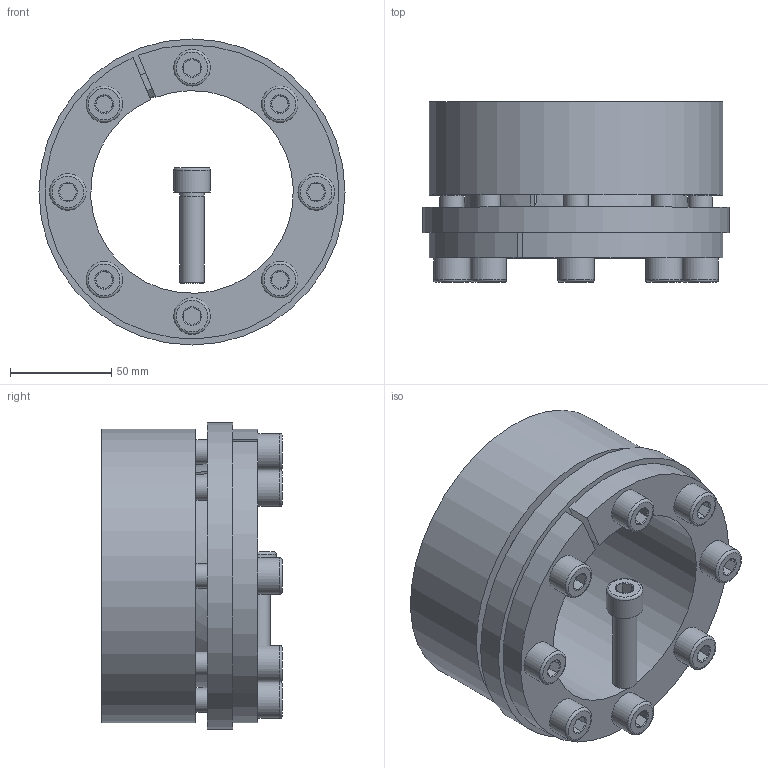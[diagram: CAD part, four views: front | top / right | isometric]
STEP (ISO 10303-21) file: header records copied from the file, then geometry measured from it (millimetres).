
FILE_DESCRIPTION( ( 'Unknown' ), '1' );
FILE_NAME( 'C:/Dokumente und Einstellungen/Sven/Desktop/homepage/cad - homepage/KBS71/KBS 71 - 100 x 145.stp', 'Unknown', ( 'Unknown' ), ( 'Unknown' ), 'XStep 1.0', 'Unknown', ' ' );
FILE_SCHEMA( ( 'automotive_design' ) );
Length unit declared in the file: millimetre
Products named in the file (3): Assem1; KBS 71 - 100 x 145; ISO EN DIN 4762 M12x45
Bounding box: 151 x 89 x 151 mm (x, y, z)
Volume: 1214703.8 mm3; surface area: 254747.6 mm2
Topology: 11 solids, 11 shells, 305 faces, 659 edges, 394 vertices
Faces by surface type: plane 140, cylinder 76, cone 71, torus 18
Full cylindrical faces by diameter (mm): 11 x9, 12 x50, 18 x9, 151 x2
Entity records: 2318 total; most frequent: CARTESIAN_POINT 365, DIRECTION 352, ORIENTED_EDGE 272, AXIS2_PLACEMENT_3D 151, EDGE_CURVE 136, EDGE_LOOP 122, VERTEX_POINT 96, FACE_OUTER_BOUND 88
